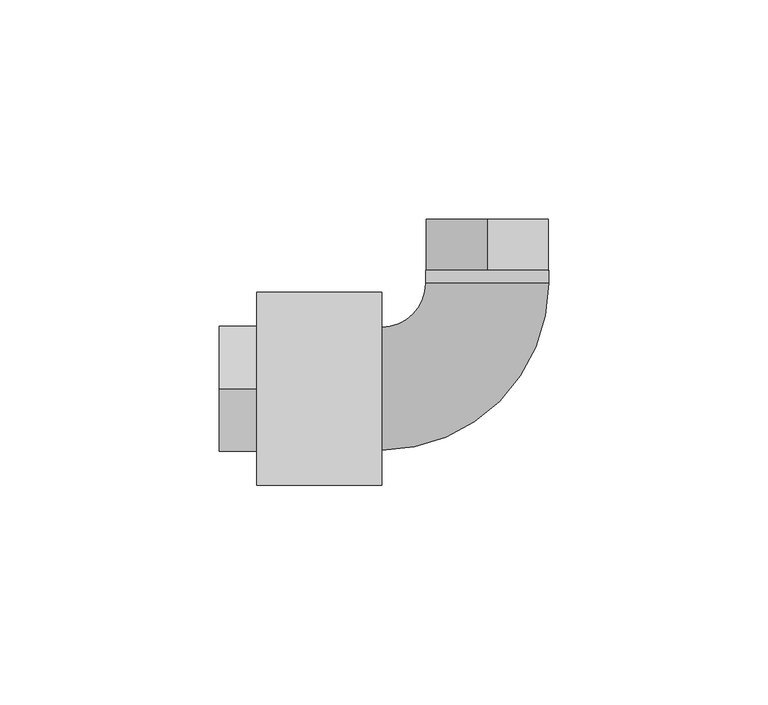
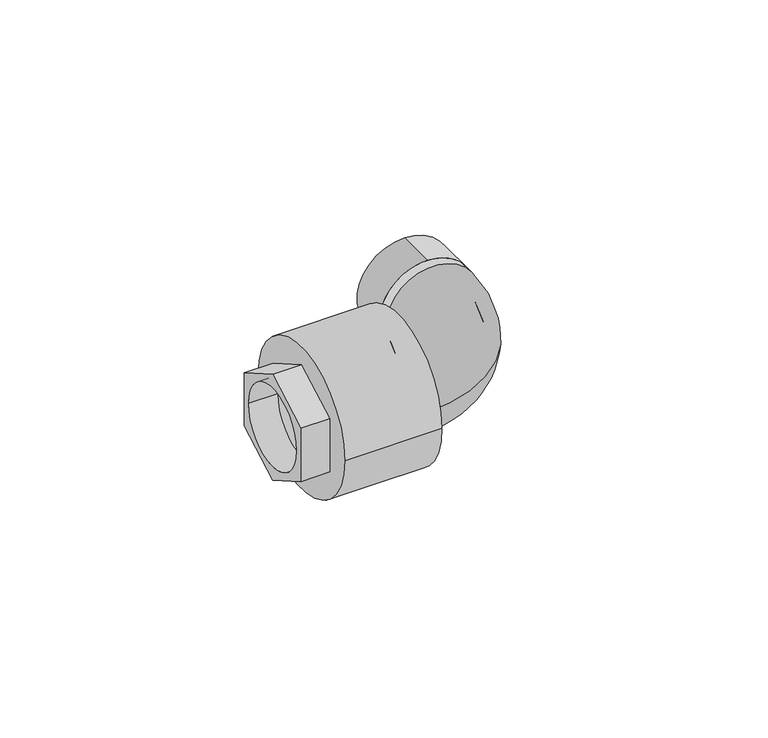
"""IFC4 building model written with IfcOpenShell, lengths in millimetres: pipe fitting geometry, 45_Угольник с накидной гайкой : Белый цвет."""

from ifc_helpers import new_model, si_unit, point, frame, frame_2d, origin, origin_2d, place, context, project, spatial, polyline, circle_curve, ellipse_curve, trimmed, segment, composite_curve, outline, extrude, source, transform, mapped, element, save
from ifc_brep_helpers import plane_surface, revolved_surface, advanced_brep


def pipe_fitting_8fa956b8(model_context):
    return source(origin(), model_context, "Body", "SolidModel", [
        extrude(outline(polyline([(-14.25, 8.2272413), (0.0, 16.4544827), (14.25, 8.2272413), (14.25, -8.2272413), (0.0, -16.4544827), (-14.25, -8.2272413), (-14.25, 8.2272413)]), holes=[composite_curve([segment(trimmed(circle_curve(origin_2d(), 12.15), [point((-12.15, 0.0))], [point((12.15, 0.0))], True, "CARTESIAN"), True, "CONTINUOUS"), segment(trimmed(circle_curve(origin_2d(), 12.15), [point((12.15, 0.0))], [point((-12.15, 0.0))], True, "CARTESIAN"), True, "CONTINUOUS")], self_intersect=False)]), frame((-57.35, 0.0, 0.0), z_axis=(1.0, 0.0, 0.0), x_axis=(0.0, 1.0, 0.0)), (0.0, 0.0, 1.0), 8.5),
        advanced_brep(
        [(-10.35, 24.0, 0.0), (17.65, 24.0, 0.0), (-6.35, 24.0, 0.0), (13.65, 24.0, 0.0), (-20.35, 14.0, 0.0), (-20.35, -14.0, 0.0), (-20.35, 10.0, 0.0), (-20.35, -10.0, 0.0)],
        [
            (0, 1, circle_curve(frame((3.65, 24.0, 0.0), z_axis=(0.0, 1.0, 0.0), x_axis=(1.0, 0.0, 0.0)), 14.0)),
            (1, 0, circle_curve(frame((3.65, 24.0, 0.0), z_axis=(0.0, 1.0, 0.0), x_axis=(1.0, 0.0, 0.0)), 14.0)),
            (2, 3, circle_curve(frame((3.65, 24.0, 0.0), z_axis=(0.0, -1.0, 0.0), x_axis=(1.0, 0.0, 0.0)), 10.0)),
            (3, 2, circle_curve(frame((3.65, 24.0, 0.0), z_axis=(0.0, -1.0, 0.0), x_axis=(1.0, 0.0, 0.0)), 10.0)),
            (4, 5, circle_curve(frame((-20.35, 0.0, 0.0), z_axis=(-1.0, 0.0, 0.0), x_axis=(0.0, -1.0, 0.0)), 14.0)),
            (5, 4, circle_curve(frame((-20.35, 0.0, 0.0), z_axis=(-1.0, 0.0, 0.0), x_axis=(0.0, -1.0, 0.0)), 14.0)),
            (6, 7, circle_curve(frame((-20.35, 0.0, 0.0), z_axis=(1.0, 0.0, 0.0), x_axis=(0.0, -1.0, 0.0)), 10.0)),
            (7, 6, circle_curve(frame((-20.35, 0.0, 0.0), z_axis=(1.0, 0.0, 0.0), x_axis=(0.0, -1.0, 0.0)), 10.0)),
            (0, 4, circle_curve(frame((-20.35, 24.0, 0.0), z_axis=(0.0, 0.0, -1.0), x_axis=(1.0, 0.0, 0.0)), 10.0)),
            (5, 1, circle_curve(frame((-20.35, 24.0, 0.0), z_axis=(0.0, 0.0, 1.0), x_axis=(1.0, 0.0, 0.0)), 38.0)),
            (2, 6, circle_curve(frame((-20.35, 24.0, 0.0), z_axis=(0.0, 0.0, -1.0), x_axis=(1.0, 0.0, 0.0)), 14.0)),
            (7, 3, circle_curve(frame((-20.35, 24.0, 0.0), z_axis=(0.0, 0.0, 1.0), x_axis=(1.0, 0.0, 0.0)), 34.0)),
        ],
        [
            plane_surface(frame((3.65, 24.0, 0.0), z_axis=(0.0, 1.0, 0.0), x_axis=(0.0, 0.0, 1.0))),
            plane_surface(frame((-20.35, 0.0, 0.0), z_axis=(-1.0, 0.0, 0.0), x_axis=(0.0, 0.0, 1.0))),
            revolved_surface(trimmed(ellipse_curve(frame((3.65, 24.0, 0.0), z_axis=(0.0, 1.0, 0.0), x_axis=(1.0, 0.0, 0.0)), 14.0, 14.0), [point((-10.35, 24.0, 0.0))], [point((17.65, 24.0, 0.0))], True, "CARTESIAN"), (-20.35, 24.0, 0.0), (0.0, 0.0, -1.0)),
            revolved_surface(trimmed(ellipse_curve(frame((3.65, 24.0, 0.0), z_axis=(0.0, 1.0, 0.0), x_axis=(1.0, 0.0, 0.0)), 14.0, 14.0), [point((17.65, 24.0, 0.0))], [point((-10.35, 24.0, 0.0))], True, "CARTESIAN"), (-20.35, 24.0, 0.0), (0.0, 0.0, -1.0)),
            revolved_surface(trimmed(ellipse_curve(frame((3.65, 24.0, 0.0), z_axis=(0.0, -1.0, 0.0), x_axis=(1.0, 0.0, 0.0)), 10.0, 10.0), [point((-6.35, 24.0, 0.0))], [point((13.65, 24.0, 0.0))], True, "CARTESIAN"), (-20.35, 24.0, 0.0), (0.0, 0.0, -1.0)),
            revolved_surface(trimmed(ellipse_curve(frame((3.65, 24.0, 0.0), z_axis=(0.0, -1.0, 0.0), x_axis=(1.0, 0.0, 0.0)), 10.0, 10.0), [point((13.65, 24.0, 0.0))], [point((-6.35, 24.0, 0.0))], True, "CARTESIAN"), (-20.35, 24.0, 0.0), (0.0, 0.0, -1.0)),
        ],
        [
            (0, [[1, 2], [3, 4]]),
            (1, [[5, 6], [7, 8]]),
            (2, [[-1, 9, -6, 10]]),
            (3, [[-2, -10, -5, -9]]),
            (4, [[-3, 11, -8, 12]]),
            (5, [[-4, -12, -7, -11]]),
        ],
    ),
        extrude(outline(composite_curve([segment(trimmed(circle_curve(origin_2d(), 22.0), [point((-22.0, 0.0))], [point((22.0, 0.0))], False, "CARTESIAN"), True, "CONTINUOUS"), segment(trimmed(circle_curve(origin_2d(), 22.0), [point((22.0, 0.0))], [point((-22.0, 0.0))], False, "CARTESIAN"), True, "CONTINUOUS")], self_intersect=False), holes=[composite_curve([segment(trimmed(circle_curve(origin_2d(), 12.15), [point((-12.15, 0.0))], [point((12.15, 0.0))], True, "CARTESIAN"), True, "CONTINUOUS"), segment(trimmed(circle_curve(origin_2d(), 12.15), [point((12.15, 0.0))], [point((-12.15, 0.0))], True, "CARTESIAN"), True, "CONTINUOUS")], self_intersect=False)]), frame((-48.85, 0.0, 0.0), z_axis=(1.0, 0.0, 0.0), x_axis=(0.0, 1.0, 0.0)), (0.0, 0.0, 1.0), 28.5),
        extrude(outline(composite_curve([segment(trimmed(circle_curve(frame_2d((0.0, 3.65)), 14.0), [point((0.0, -10.35))], [point((0.0, 17.65))], False, "CARTESIAN"), True, "CONTINUOUS"), segment(trimmed(circle_curve(frame_2d((0.0, 3.65)), 14.0), [point((0.0, 17.65))], [point((0.0, -10.35))], False, "CARTESIAN"), True, "CONTINUOUS")], self_intersect=False), holes=[composite_curve([segment(trimmed(circle_curve(frame_2d((0.0, 3.65)), 10.0), [point((0.0, 13.65))], [point((0.0, -6.35))], True, "CARTESIAN"), True, "CONTINUOUS"), segment(trimmed(circle_curve(frame_2d((0.0, 3.65)), 10.0), [point((0.0, -6.35))], [point((0.0, 13.65))], True, "CARTESIAN"), True, "CONTINUOUS")], self_intersect=False)]), frame((0.0, 24.0, 0.0), z_axis=(0.0, 1.0, 0.0), x_axis=(0.0, 0.0, 1.0)), (0.0, 0.0, 1.0), 3.0),
        extrude(outline(composite_curve([segment(trimmed(circle_curve(frame_2d((0.0, 3.65)), 14.0), [point((-14.0, 3.65))], [point((14.0, 3.65))], False, "CARTESIAN"), True, "CONTINUOUS"), segment(trimmed(circle_curve(frame_2d((0.0, 3.65)), 14.0), [point((14.0, 3.65))], [point((-14.0, 3.65))], False, "CARTESIAN"), True, "CONTINUOUS")], self_intersect=False), holes=[composite_curve([segment(trimmed(circle_curve(frame_2d((0.0, 3.65)), 10.0), [point((-10.0, 3.65))], [point((10.0, 3.65))], True, "CARTESIAN"), True, "CONTINUOUS"), segment(trimmed(circle_curve(frame_2d((0.0, 3.65)), 10.0), [point((10.0, 3.65))], [point((-10.0, 3.65))], True, "CARTESIAN"), True, "CONTINUOUS")], self_intersect=False)]), frame((0.0, 27.0, 0.0), z_axis=(0.0, 1.0, 0.0), x_axis=(0.0, 0.0, 1.0)), (0.0, 0.0, 1.0), 11.55),
    ])


if __name__ == "__main__":
    model = new_model("IFC4")
    model_context = context("Model", 3, world=origin())
    ifc_project = project(units=[si_unit("LENGTHUNIT", "METRE", prefix="MILLI")], contexts=[model_context])
    site = spatial("IfcSite", under=ifc_project)
    building = spatial("IfcBuilding", under=site)
    placement = place(None, origin())
    pipe_fitting_shape = pipe_fitting_8fa956b8(model_context)
    element("IfcPipeFitting", 1, ObjectType="45_Угольник с накидной гайкой : Белый цвет", at=placement, inside=building, context=model_context, shape_type="MappedRepresentation", body=[
        mapped(pipe_fitting_shape, transform((0.0, 0.0, 0.0), x_axis=(1.0, 0.0, 0.0), y_axis=(0.0, 1.0, 0.0), z_axis=(0.0, 0.0, 1.0))),
    ])
    save(model, "model.ifc")
